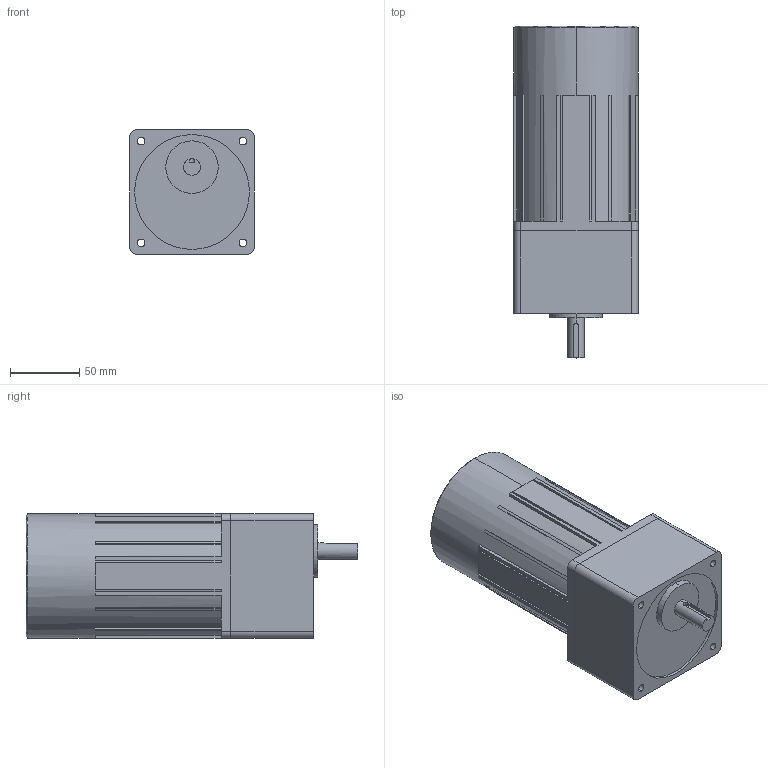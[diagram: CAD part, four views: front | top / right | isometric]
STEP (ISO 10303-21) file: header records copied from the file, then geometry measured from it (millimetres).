
FILE_DESCRIPTION (( 'STEP AP203' ), '1' );
FILE_NAME ('L9HK025B + L9R40PBLE.STEP', '2018-09-20T05:42:15', ( '' ), ( '' ), 'SwSTEP 2.0', 'SolidWorks 2017', '' );
FILE_SCHEMA (( 'CONFIG_CONTROL_DESIGN' ));
Length unit declared in the file: millimetre
Products named in the file (1): L9HK025B + L9R40PBLE
Bounding box: 90 x 240 x 90 mm (x, y, z)
Volume: 1435925 mm3; surface area: 108168.1 mm2
Topology: 2 solids, 2 shells, 149 faces, 406 edges, 268 vertices
Faces by surface type: plane 106, cylinder 41, cone 2
Entity records: 4854 total; most frequent: CARTESIAN_POINT 854, DIRECTION 829, ORIENTED_EDGE 812, EDGE_CURVE 406, LINE 279, VECTOR 279, AXIS2_PLACEMENT_3D 275, VERTEX_POINT 268
